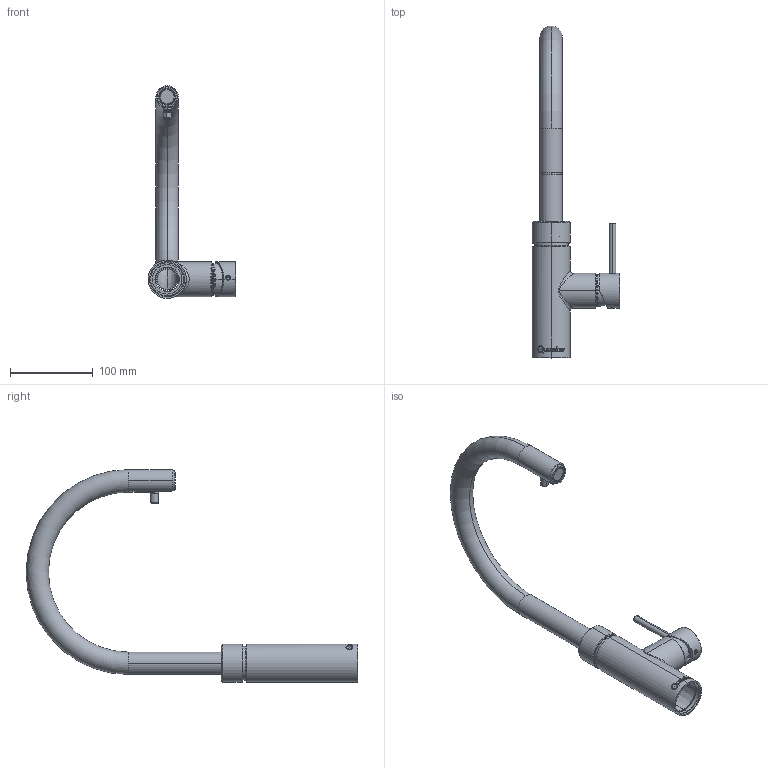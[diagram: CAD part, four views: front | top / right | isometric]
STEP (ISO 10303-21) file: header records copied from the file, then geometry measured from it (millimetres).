
FILE_DESCRIPTION (( 'STEP AP214' ), '1' );
FILE_NAME ('Flex Round.STEP', '2025-01-08T13:53:20', ( '' ), ( '' ), 'SwSTEP 2.0', 'SolidWorks 2024', '' );
FILE_SCHEMA (( 'AUTOMOTIVE_DESIGN' ));
Length unit declared in the file: millimetre
Products named in the file (1): Flex Round
Bounding box: 105.85 x 400 x 256.5 mm (x, y, z)
Volume: 155143.5 mm3; surface area: 165865.4 mm2
Topology: 12 solids, 12 shells, 876 faces, 2075 edges, 1231 vertices
Faces by surface type: cylinder 251, bspline 198, plane 174, cone 123, torus 106, sphere 24
Entity records: 37446 total; most frequent: CARTESIAN_POINT 18710, ORIENTED_EDGE 4110, DIRECTION 3654, EDGE_CURVE 2055, AXIS2_PLACEMENT_3D 1556, VERTEX_POINT 1231, EDGE_LOOP 936, CIRCLE 877
